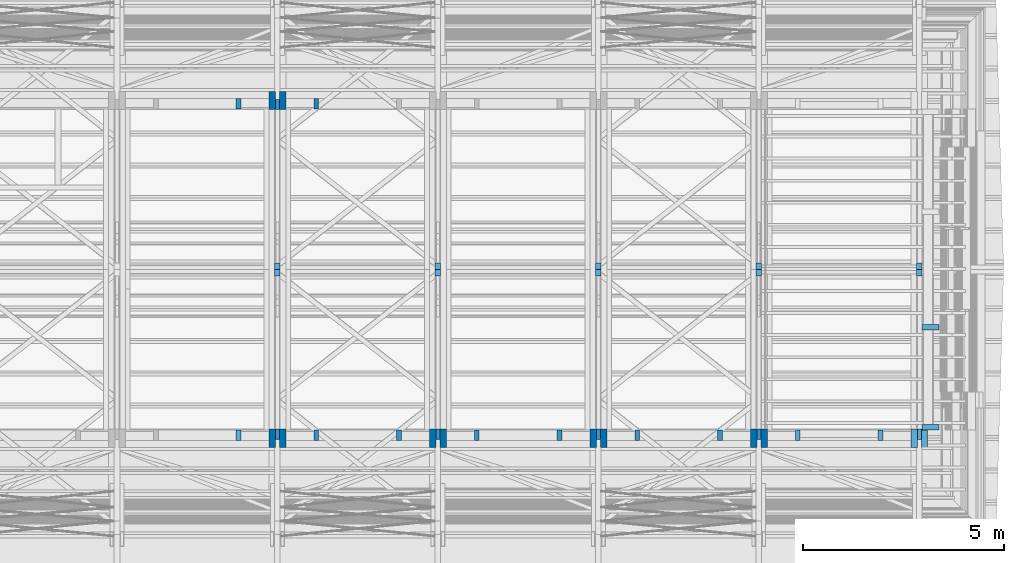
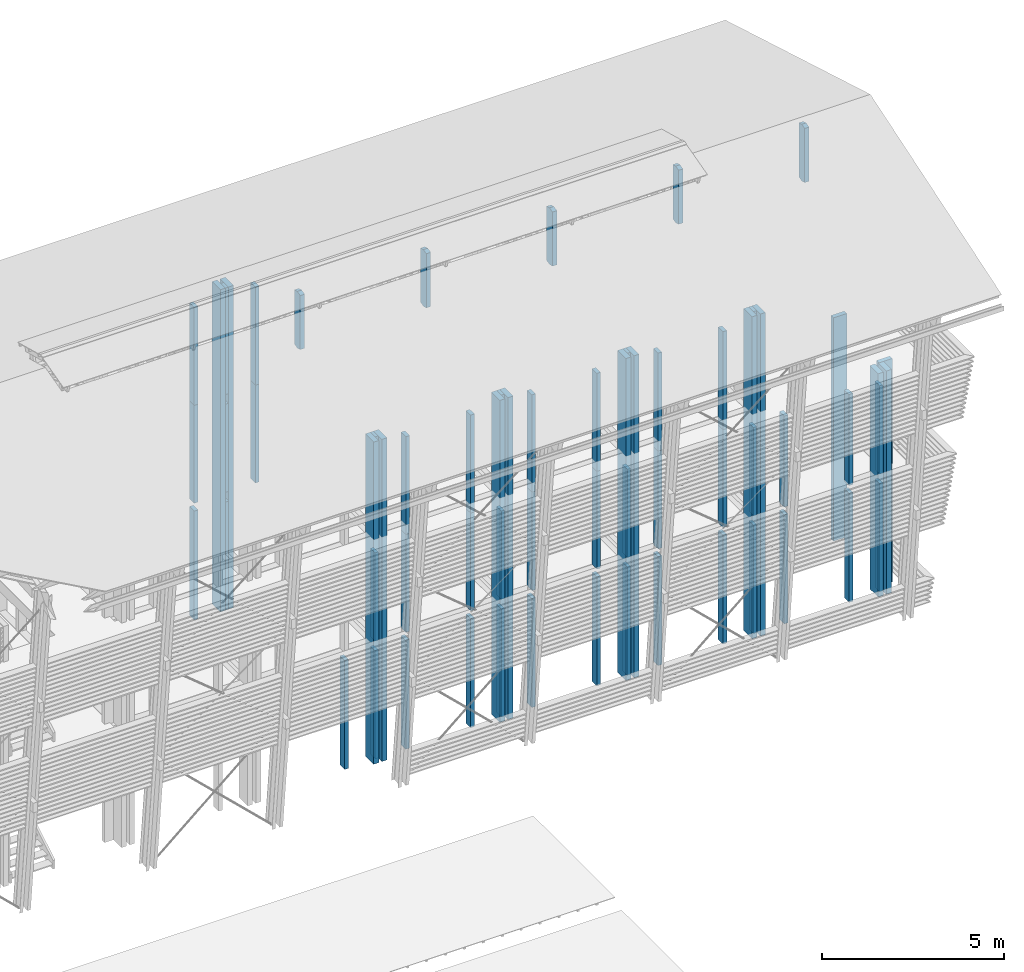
# One storey, part 3 of 48: 64 columns.
"""IFC2X3 building model written with IfcOpenShell, lengths in metres."""

from ifc_helpers import new_model, si_unit, direction, frame, origin_with_axes, place, context, subcontext, project, spatial, faceted_brep, material, element, save


model = new_model("IFC2X3")

# Units and contexts
model_context = context("Model", 3, precision=1e-06, world=origin_with_axes(), true_north=direction((0.0, 1.0, 0.0)))
body_context = subcontext(model_context, "Body", "Model", "MODEL_VIEW")
ifc_project = project(units=[si_unit("LENGTHUNIT", "METRE"), si_unit("AREAUNIT", "SQUARE_METRE"), si_unit("VOLUMEUNIT", "CUBIC_METRE"), si_unit("PLANEANGLEUNIT", "RADIAN")], contexts=[model_context])

# Site, building, storey
site_placement = place(None, origin_with_axes())
site = spatial("IfcSite", under=ifc_project, at=site_placement, CompositionType="ELEMENT")
building_placement = place(site_placement, origin_with_axes())
building = spatial("IfcBuilding", under=site, at=building_placement, Name="Building 1", CompositionType="ELEMENT")
storey_placement = place(building_placement, origin_with_axes())
storey = spatial("IfcBuildingStorey", under=building, at=storey_placement, Name="Storey 1", CompositionType="ELEMENT", Elevation=0.0)

# Columns
ifc_material = material(Name="GL28h")
column_1_placement = place(storey_placement, frame((68.5197437, -193.3396515, 4.215), z_axis=(0.0, 1.0, 0.0), x_axis=(0.0, 0.0, 1.0)))
element("IfcColumn", 1, at=column_1_placement, inside=storey, material=ifc_material, Name="poteau encadrement menuiserie", context=body_context, shape_type="Brep", body=[
    faceted_brep([(3.055, -0.06, 0.13), (3.055, 0.06, 0.13), (0.0, 0.06, 0.13), (0.0, -0.06, 0.13), (3.055, 0.06, -0.13), (0.0, 0.06, -0.13), (3.055, -0.06, -0.13), (0.0, -0.06, -0.13)], [[[0, 1, 2, 3]], [[1, 4, 5, 2]], [[4, 6, 7, 5]], [[7, 3, 2, 5]], [[6, 0, 3, 7]], [[0, 6, 4, 1]]]),
])
column_2_placement = place(storey_placement, frame((65.6197437, -193.4196515, 0.3), z_axis=(0.0, 1.0, 0.0), x_axis=(0.0, 0.0, 1.0)))
element("IfcColumn", 2, at=column_2_placement, inside=storey, material=ifc_material, Name="Poteau", context=body_context, shape_type="Brep", body=[
    faceted_brep([(10.8, 0.08, 0.23), (0.0, 0.08, 0.23), (0.0, -0.08, 0.23), (10.8, -0.08, 0.23), (10.8, 0.08, -0.23), (0.0, 0.08, -0.23), (10.8, -0.08, -0.23), (0.0, -0.08, -0.23)], [[[0, 1, 2, 3]], [[0, 4, 5, 1]], [[6, 7, 5, 4]], [[2, 7, 6, 3]], [[1, 5, 7, 2]], [[3, 6, 4, 0]]]),
])
column_3_placement = place(storey_placement, frame((57.4897437, -189.2080698, 11.5112653), z_axis=(0.0, -1.0, 0.0), x_axis=(0.0, 0.0, 1.0)))
element("IfcColumn", 3, at=column_3_placement, inside=storey, material=ifc_material, Name="poinçon", context=body_context, shape_type="Brep", body=[
    faceted_brep([(0.0428719, 0.07, 0.16), (0.0428719, -0.07, 0.16), (1.8571281, -0.07, 0.16), (1.8571281, 0.07, 0.16), (0.0, -0.07, 0.0), (0.0, 0.07, 0.0), (1.9, -0.07, 0.0), (1.9, 0.07, 0.0), (0.0428719, 0.07, -0.16), (0.0428719, -0.07, -0.16), (1.8571281, 0.07, -0.16), (1.8571281, -0.07, -0.16)], [[[0, 1, 2, 3]], [[4, 1, 0, 5]], [[6, 7, 3, 2]], [[8, 9, 4, 5]], [[8, 5, 0, 3, 7, 10]], [[9, 8, 10, 11]], [[11, 10, 7, 6]], [[4, 9, 11, 6, 2, 1]]]),
])
column_4_placement = place(storey_placement, frame((57.4897437, -193.3196515, 7.529), z_axis=(0.0, -1.0, 0.0), x_axis=(0.0, 0.0, 1.0)))
element("IfcColumn", 4, at=column_4_placement, inside=storey, material=ifc_material, Name="Fourrure", context=body_context, shape_type="Brep", body=[
    faceted_brep([(0.0, 0.05, 0.13), (0.0, -0.05, 0.13), (3.571, -0.05, 0.13), (3.571, 0.05, 0.13), (0.0, 0.05, -0.13), (3.571, 0.05, -0.13), (0.0, -0.05, -0.13), (3.571, -0.05, -0.13)], [[[0, 1, 2, 3]], [[4, 0, 3, 5]], [[6, 4, 5, 7]], [[1, 6, 7, 2]], [[4, 6, 1, 0]], [[2, 7, 5, 3]]]),
])
column_5_placement = place(storey_placement, frame((69.4897437, -193.3196515, 4.249), z_axis=(0.0, -1.0, 0.0), x_axis=(0.0, 0.0, 1.0)))
element("IfcColumn", 5, at=column_5_placement, inside=storey, material=ifc_material, Name="Fourrure", context=body_context, shape_type="Brep", body=[
    faceted_brep([(0.0, 0.05, -0.13), (0.0, -0.05, -0.13), (0.0, -0.05, 0.13), (0.0, 0.05, 0.13), (2.96, 0.05, 0.13), (2.96, 0.05, -0.13), (2.96, -0.05, -0.13), (2.96, -0.05, 0.13)], [[[0, 1, 2, 3]], [[0, 3, 4, 5]], [[1, 0, 5, 6]], [[3, 2, 7, 4]], [[2, 1, 6, 7]], [[7, 6, 5, 4]]]),
])
column_6_placement = place(storey_placement, frame((68.5197437, -193.3396515, 0.3), z_axis=(0.0, -1.0, 0.0), x_axis=(0.0, 0.0, 1.0)))
element("IfcColumn", 6, at=column_6_placement, inside=storey, material=ifc_material, Name="poteau encadrement menuiserie", context=body_context, shape_type="Brep", body=[
    faceted_brep([(0.0, 0.06, -0.13), (3.655, 0.06, -0.13), (3.655, -0.06, -0.13), (0.0, -0.06, -0.13), (0.0, 0.06, 0.13), (3.655, 0.06, 0.13), (0.0, -0.06, 0.13), (3.655, -0.06, 0.13)], [[[0, 1, 2, 3]], [[4, 5, 1, 0]], [[6, 7, 5, 4]], [[3, 2, 7, 6]], [[7, 2, 1, 5]], [[3, 6, 4, 0]]]),
])
column_7_placement = place(storey_placement, frame((66.4597437, -193.3396515, 4.215), z_axis=(0.0, 1.0, 0.0), x_axis=(0.0, 0.0, 1.0)))
element("IfcColumn", 7, at=column_7_placement, inside=storey, material=ifc_material, Name="poteau encadrement menuiserie", context=body_context, shape_type="Brep", body=[
    faceted_brep([(3.055, -0.06, 0.13), (3.055, 0.06, 0.13), (0.0, 0.06, 0.13), (0.0, -0.06, 0.13), (3.055, 0.06, -0.13), (0.0, 0.06, -0.13), (3.055, -0.06, -0.13), (0.0, -0.06, -0.13)], [[[0, 1, 2, 3]], [[1, 4, 5, 2]], [[4, 6, 7, 5]], [[7, 3, 2, 5]], [[6, 0, 3, 7]], [[0, 6, 4, 1]]]),
])
column_8_placement = place(storey_placement, frame((69.7697437, -190.6480698, 0.3), z_axis=(1.0, 0.0, 0.0), x_axis=(0.0, 0.0, 1.0)))
element("IfcColumn", 8, at=column_8_placement, inside=storey, material=ifc_material, Name="poteau", context=body_context, shape_type="Brep", body=[
    faceted_brep([(7.49, 0.07, 0.21), (7.49, 0.07, -0.21), (0.0, 0.07, -0.21), (0.0, 0.07, 0.21), (7.49, -0.07, -0.21), (0.0, -0.07, -0.21), (7.49, -0.07, 0.21), (0.0, -0.07, 0.21)], [[[0, 1, 2, 3]], [[1, 4, 5, 2]], [[4, 6, 7, 5]], [[6, 0, 3, 7]], [[0, 6, 4, 1]], [[3, 2, 5, 7]]]),
])
column_9_placement = place(storey_placement, frame((54.4597437, -185.0764881, 4.215), z_axis=(0.0, -1.0, 0.0), x_axis=(0.0, 0.0, 1.0)))
element("IfcColumn", 9, at=column_9_placement, inside=storey, material=ifc_material, Name="poteau encadrement menuiserie", context=body_context, shape_type="Brep", body=[
    faceted_brep([(3.3, 0.06, 0.13), (3.3, 0.06, -0.13), (0.0, 0.06, -0.13), (0.0, 0.06, 0.13), (3.3, -0.06, -0.13), (0.0, -0.06, -0.13), (3.3, -0.06, 0.13), (0.0, -0.06, 0.13)], [[[0, 1, 2, 3]], [[1, 4, 5, 2]], [[4, 6, 7, 5]], [[6, 0, 3, 7]], [[0, 6, 4, 1]], [[3, 2, 5, 7]]]),
])
column_10_placement = place(storey_placement, frame((56.5197437, -193.3396515, 7.495), z_axis=(0.0, 1.0, 0.0), x_axis=(0.0, 0.0, 1.0)))
element("IfcColumn", 10, at=column_10_placement, inside=storey, material=ifc_material, Name="poteau encadrement menuiserie", context=body_context, shape_type="Brep", body=[
    faceted_brep([(0.0, -0.06, 0.13), (3.285, -0.06, 0.13), (3.285, 0.06, 0.13), (0.0, 0.06, 0.13), (3.285, 0.06, -0.13), (0.0, 0.06, -0.13), (3.285, -0.06, -0.13), (0.0, -0.06, -0.13)], [[[0, 1, 2, 3]], [[3, 2, 4, 5]], [[5, 4, 6, 7]], [[7, 0, 3, 5]], [[7, 6, 1, 0]], [[1, 6, 4, 2]]]),
])
column_11_placement = place(storey_placement, frame((66.4597437, -193.3396515, 0.3), z_axis=(0.0, -1.0, 0.0), x_axis=(0.0, 0.0, 1.0)))
element("IfcColumn", 11, at=column_11_placement, inside=storey, material=ifc_material, Name="poteau encadrement menuiserie", context=body_context, shape_type="Brep", body=[
    faceted_brep([(0.0, 0.06, -0.13), (3.655, 0.06, -0.13), (3.655, -0.06, -0.13), (0.0, -0.06, -0.13), (0.0, 0.06, 0.13), (3.655, 0.06, 0.13), (0.0, -0.06, 0.13), (3.655, -0.06, 0.13)], [[[0, 1, 2, 3]], [[4, 5, 1, 0]], [[6, 7, 5, 4]], [[3, 2, 7, 6]], [[7, 2, 1, 5]], [[3, 6, 4, 0]]]),
])
column_12_placement = place(storey_placement, frame((69.6197437, -193.4196515, 0.3), z_axis=(0.0, 1.0, 0.0), x_axis=(0.0, 0.0, 1.0)))
element("IfcColumn", 12, at=column_12_placement, inside=storey, material=ifc_material, Name="Poteau", context=body_context, shape_type="Brep", body=[
    faceted_brep([(7.49, -0.08, 0.23), (7.49, 0.08, 0.23), (0.0, 0.08, 0.23), (0.0, -0.08, 0.23), (7.49, 0.08, -0.23), (0.0, 0.08, -0.23), (7.49, -0.08, -0.23), (0.0, -0.08, -0.23)], [[[0, 1, 2, 3]], [[1, 4, 5, 2]], [[4, 6, 7, 5]], [[6, 0, 3, 7]], [[0, 6, 4, 1]], [[2, 5, 7, 3]]]),
])
column_13_placement = place(storey_placement, frame((69.7697437, -193.1396515, 0.3), z_axis=(1.0, 0.0, 0.0), x_axis=(0.0, 0.0, 1.0)))
element("IfcColumn", 13, at=column_13_placement, inside=storey, material=ifc_material, Name="poteau", context=body_context, shape_type="Brep", body=[
    faceted_brep([(7.49, 0.07, 0.21), (7.49, 0.07, -0.21), (0.0, 0.07, -0.21), (0.0, 0.07, 0.21), (7.49, -0.07, -0.21), (0.0, -0.07, -0.21), (7.49, -0.07, 0.21), (0.0, -0.07, 0.21)], [[[0, 1, 2, 3]], [[1, 4, 5, 2]], [[4, 6, 7, 5]], [[6, 0, 3, 7]], [[0, 6, 4, 1]], [[3, 2, 5, 7]]]),
])
column_14_placement = place(storey_placement, frame((61.6197437, -193.4196515, 0.3), z_axis=(0.0, 1.0, 0.0), x_axis=(0.0, 0.0, 1.0)))
element("IfcColumn", 14, at=column_14_placement, inside=storey, material=ifc_material, Name="Poteau", context=body_context, shape_type="Brep", body=[
    faceted_brep([(10.8, 0.08, 0.23), (0.0, 0.08, 0.23), (0.0, -0.08, 0.23), (10.8, -0.08, 0.23), (10.8, 0.08, -0.23), (0.0, 0.08, -0.23), (10.8, -0.08, -0.23), (0.0, -0.08, -0.23)], [[[0, 1, 2, 3]], [[0, 4, 5, 1]], [[6, 7, 5, 4]], [[2, 7, 6, 3]], [[1, 5, 7, 2]], [[3, 6, 4, 0]]]),
])
column_15_placement = place(storey_placement, frame((69.4897437, -189.2080698, 11.5112653), z_axis=(0.0, -1.0, 0.0), x_axis=(0.0, 0.0, 1.0)))
element("IfcColumn", 15, at=column_15_placement, inside=storey, material=ifc_material, Name="poinçon", context=body_context, shape_type="Brep", body=[
    faceted_brep([(0.0428719, 0.07, 0.16), (0.0428719, -0.07, 0.16), (1.8571281, -0.07, 0.16), (1.8571281, 0.07, 0.16), (0.0, -0.07, 0.0), (0.0, 0.07, 0.0), (1.9, -0.07, 0.0), (1.9, 0.07, 0.0), (0.0428719, 0.07, -0.16), (0.0428719, -0.07, -0.16), (1.8571281, 0.07, -0.16), (1.8571281, -0.07, -0.16)], [[[0, 1, 2, 3]], [[4, 1, 0, 5]], [[6, 7, 3, 2]], [[8, 9, 4, 5]], [[8, 5, 0, 3, 7, 10]], [[9, 8, 10, 11]], [[11, 10, 7, 6]], [[4, 9, 11, 6, 2, 1]]]),
])
column_16_placement = place(storey_placement, frame((69.4897437, -193.3196515, 0.3), z_axis=(0.0, -1.0, 0.0), x_axis=(0.0, 0.0, 1.0)))
element("IfcColumn", 16, at=column_16_placement, inside=storey, material=ifc_material, Name="Fourrure", context=body_context, shape_type="Brep", body=[
    faceted_brep([(3.629, -0.05, 0.13), (3.629, -0.05, -0.13), (3.629, 0.05, -0.13), (3.629, 0.05, 0.13), (0.0, 0.05, 0.13), (0.0, -0.05, 0.13), (0.0, -0.05, -0.13), (0.0, 0.05, -0.13)], [[[0, 1, 2, 3]], [[0, 3, 4, 5]], [[1, 0, 5, 6]], [[2, 1, 6, 7]], [[3, 2, 7, 4]], [[6, 5, 4, 7]]]),
])
column_17_placement = place(storey_placement, frame((69.3597437, -193.4196515, 0.3), z_axis=(0.0, 1.0, 0.0), x_axis=(0.0, 0.0, 1.0)))
element("IfcColumn", 17, at=column_17_placement, inside=storey, material=ifc_material, Name="Poteau", context=body_context, shape_type="Brep", body=[
    faceted_brep([(7.49, -0.08, 0.23), (7.49, 0.08, 0.23), (0.0, 0.08, 0.23), (0.0, -0.08, 0.23), (7.49, 0.08, -0.23), (0.0, 0.08, -0.23), (7.49, -0.08, -0.23), (0.0, -0.08, -0.23)], [[[0, 1, 2, 3]], [[1, 4, 5, 2]], [[4, 6, 7, 5]], [[6, 0, 3, 7]], [[0, 6, 4, 1]], [[2, 5, 7, 3]]]),
])
column_18_placement = place(storey_placement, frame((61.4897437, -193.3196515, 0.3), z_axis=(0.0, -1.0, 0.0), x_axis=(0.0, 0.0, 1.0)))
element("IfcColumn", 18, at=column_18_placement, inside=storey, material=ifc_material, Name="Fourrure", context=body_context, shape_type="Brep", body=[
    faceted_brep([(3.629, -0.05, 0.13), (3.629, -0.05, -0.13), (3.629, 0.05, -0.13), (3.629, 0.05, 0.13), (0.0, 0.05, 0.13), (0.0, -0.05, 0.13), (0.0, -0.05, -0.13), (0.0, 0.05, -0.13)], [[[0, 1, 2, 3]], [[0, 3, 4, 5]], [[1, 0, 5, 6]], [[2, 1, 6, 7]], [[3, 2, 7, 4]], [[6, 5, 4, 7]]]),
])
column_19_placement = place(storey_placement, frame((58.4597437, -193.3396515, 4.215), z_axis=(0.0, 1.0, 0.0), x_axis=(0.0, 0.0, 1.0)))
element("IfcColumn", 19, at=column_19_placement, inside=storey, material=ifc_material, Name="poteau encadrement menuiserie", context=body_context, shape_type="Brep", body=[
    faceted_brep([(3.3, 0.06, 0.13), (3.3, 0.06, -0.13), (0.0, 0.06, -0.13), (0.0, 0.06, 0.13), (3.3, -0.06, -0.13), (0.0, -0.06, -0.13), (3.3, -0.06, 0.13), (0.0, -0.06, 0.13)], [[[0, 1, 2, 3]], [[1, 4, 5, 2]], [[4, 6, 7, 5]], [[5, 7, 3, 2]], [[6, 0, 3, 7]], [[0, 6, 4, 1]]]),
])
column_20_placement = place(storey_placement, frame((65.4897437, -193.3196515, 0.3), z_axis=(0.0, -1.0, 0.0), x_axis=(0.0, 0.0, 1.0)))
element("IfcColumn", 20, at=column_20_placement, inside=storey, material=ifc_material, Name="Fourrure", context=body_context, shape_type="Brep", body=[
    faceted_brep([(3.629, -0.05, 0.13), (3.629, -0.05, -0.13), (3.629, 0.05, -0.13), (3.629, 0.05, 0.13), (0.0, 0.05, 0.13), (0.0, -0.05, 0.13), (0.0, -0.05, -0.13), (0.0, 0.05, -0.13)], [[[0, 1, 2, 3]], [[0, 3, 4, 5]], [[1, 0, 5, 6]], [[2, 1, 6, 7]], [[3, 2, 7, 4]], [[6, 5, 4, 7]]]),
])
column_21_placement = place(storey_placement, frame((62.4597437, -193.3396515, 4.215), z_axis=(0.0, 1.0, 0.0), x_axis=(0.0, 0.0, 1.0)))
element("IfcColumn", 21, at=column_21_placement, inside=storey, material=ifc_material, Name="poteau encadrement menuiserie", context=body_context, shape_type="Brep", body=[
    faceted_brep([(3.3, 0.06, 0.13), (3.3, 0.06, -0.13), (0.0, 0.06, -0.13), (0.0, 0.06, 0.13), (3.3, -0.06, -0.13), (0.0, -0.06, -0.13), (3.3, -0.06, 0.13), (0.0, -0.06, 0.13)], [[[0, 1, 2, 3]], [[1, 4, 5, 2]], [[4, 6, 7, 5]], [[5, 7, 3, 2]], [[6, 0, 3, 7]], [[0, 6, 4, 1]]]),
])
column_22_placement = place(storey_placement, frame((57.4897437, -193.3196515, 4.249), z_axis=(0.0, -1.0, 0.0), x_axis=(0.0, 0.0, 1.0)))
element("IfcColumn", 22, at=column_22_placement, inside=storey, material=ifc_material, Name="Fourrure", context=body_context, shape_type="Brep", body=[
    faceted_brep([(0.0, 0.05, -0.13), (0.0, -0.05, -0.13), (0.0, -0.05, 0.13), (0.0, 0.05, 0.13), (2.96, 0.05, 0.13), (2.96, 0.05, -0.13), (2.96, -0.05, -0.13), (2.96, -0.05, 0.13)], [[[0, 1, 2, 3]], [[0, 3, 4, 5]], [[1, 0, 5, 6]], [[3, 2, 7, 4]], [[2, 1, 6, 7]], [[7, 6, 5, 4]]]),
])
column_23_placement = place(storey_placement, frame((61.4897437, -193.3196515, 7.529), z_axis=(0.0, -1.0, 0.0), x_axis=(0.0, 0.0, 1.0)))
element("IfcColumn", 23, at=column_23_placement, inside=storey, material=ifc_material, Name="Fourrure", context=body_context, shape_type="Brep", body=[
    faceted_brep([(0.0, 0.05, 0.13), (0.0, -0.05, 0.13), (3.571, -0.05, 0.13), (3.571, 0.05, 0.13), (0.0, 0.05, -0.13), (3.571, 0.05, -0.13), (0.0, -0.05, -0.13), (3.571, -0.05, -0.13)], [[[0, 1, 2, 3]], [[4, 0, 3, 5]], [[6, 4, 5, 7]], [[1, 6, 7, 2]], [[4, 6, 1, 0]], [[2, 7, 5, 3]]]),
])
column_24_placement = place(storey_placement, frame((65.4897437, -189.2080698, 11.5112653), z_axis=(0.0, -1.0, 0.0), x_axis=(0.0, 0.0, 1.0)))
element("IfcColumn", 24, at=column_24_placement, inside=storey, material=ifc_material, Name="poinçon", context=body_context, shape_type="Brep", body=[
    faceted_brep([(0.0428719, 0.07, 0.16), (0.0428719, -0.07, 0.16), (1.8571281, -0.07, 0.16), (1.8571281, 0.07, 0.16), (0.0, -0.07, 0.0), (0.0, 0.07, 0.0), (1.9, -0.07, 0.0), (1.9, 0.07, 0.0), (0.0428719, 0.07, -0.16), (0.0428719, -0.07, -0.16), (1.8571281, 0.07, -0.16), (1.8571281, -0.07, -0.16)], [[[0, 1, 2, 3]], [[4, 1, 0, 5]], [[6, 7, 3, 2]], [[8, 9, 4, 5]], [[8, 5, 0, 3, 7, 10]], [[9, 8, 10, 11]], [[11, 10, 7, 6]], [[4, 9, 11, 6, 2, 1]]]),
])
column_25_placement = place(storey_placement, frame((54.4597437, -193.3396515, 7.495), z_axis=(0.0, -1.0, 0.0), x_axis=(0.0, 0.0, 1.0)))
element("IfcColumn", 25, at=column_25_placement, inside=storey, material=ifc_material, Name="poteau encadrement menuiserie", context=body_context, shape_type="Brep", body=[
    faceted_brep([(0.0, -0.06, 0.13), (3.285, -0.06, 0.13), (3.285, 0.06, 0.13), (0.0, 0.06, 0.13), (3.285, 0.06, -0.13), (0.0, 0.06, -0.13), (3.285, -0.06, -0.13), (0.0, -0.06, -0.13)], [[[0, 1, 2, 3]], [[3, 2, 4, 5]], [[5, 4, 6, 7]], [[7, 0, 3, 5]], [[7, 6, 1, 0]], [[1, 6, 4, 2]]]),
])
column_26_placement = place(storey_placement, frame((53.6197437, -193.4196515, 0.3), z_axis=(0.0, 1.0, 0.0), x_axis=(0.0, 0.0, 1.0)))
element("IfcColumn", 26, at=column_26_placement, inside=storey, material=ifc_material, Name="Poteau", context=body_context, shape_type="Brep", body=[
    faceted_brep([(10.8, 0.08, 0.23), (0.0, 0.08, 0.23), (0.0, -0.08, 0.23), (10.8, -0.08, 0.23), (10.8, 0.08, -0.23), (0.0, 0.08, -0.23), (10.8, -0.08, -0.23), (0.0, -0.08, -0.23)], [[[0, 1, 2, 3]], [[0, 4, 5, 1]], [[6, 7, 5, 4]], [[2, 7, 6, 3]], [[1, 5, 7, 2]], [[3, 6, 4, 0]]]),
])
column_27_placement = place(storey_placement, frame((57.4897437, -193.3196515, 0.3), z_axis=(0.0, -1.0, 0.0), x_axis=(0.0, 0.0, 1.0)))
element("IfcColumn", 27, at=column_27_placement, inside=storey, material=ifc_material, Name="Fourrure", context=body_context, shape_type="Brep", body=[
    faceted_brep([(3.629, -0.05, 0.13), (3.629, -0.05, -0.13), (3.629, 0.05, -0.13), (3.629, 0.05, 0.13), (0.0, 0.05, 0.13), (0.0, -0.05, 0.13), (0.0, -0.05, -0.13), (0.0, 0.05, -0.13)], [[[0, 1, 2, 3]], [[0, 3, 4, 5]], [[1, 0, 5, 6]], [[2, 1, 6, 7]], [[3, 2, 7, 4]], [[6, 5, 4, 7]]]),
])
column_28_placement = place(storey_placement, frame((56.5197437, -193.3396515, 4.215), z_axis=(0.0, 1.0, 0.0), x_axis=(0.0, 0.0, 1.0)))
element("IfcColumn", 28, at=column_28_placement, inside=storey, material=ifc_material, Name="poteau encadrement menuiserie", context=body_context, shape_type="Brep", body=[
    faceted_brep([(3.3, 0.06, 0.13), (3.3, 0.06, -0.13), (0.0, 0.06, -0.13), (0.0, 0.06, 0.13), (3.3, -0.06, -0.13), (0.0, -0.06, -0.13), (3.3, -0.06, 0.13), (0.0, -0.06, 0.13)], [[[0, 1, 2, 3]], [[1, 4, 5, 2]], [[4, 6, 7, 5]], [[5, 7, 3, 2]], [[6, 0, 3, 7]], [[0, 6, 4, 1]]]),
])
column_29_placement = place(storey_placement, frame((53.4897437, -193.3196515, 4.249), z_axis=(0.0, -1.0, 0.0), x_axis=(0.0, 0.0, 1.0)))
element("IfcColumn", 29, at=column_29_placement, inside=storey, material=ifc_material, Name="Fourrure", context=body_context, shape_type="Brep", body=[
    faceted_brep([(0.0, 0.05, -0.13), (0.0, -0.05, -0.13), (0.0, -0.05, 0.13), (0.0, 0.05, 0.13), (2.96, 0.05, 0.13), (2.96, 0.05, -0.13), (2.96, -0.05, -0.13), (2.96, -0.05, 0.13)], [[[0, 1, 2, 3]], [[0, 3, 4, 5]], [[1, 0, 5, 6]], [[3, 2, 7, 4]], [[2, 1, 6, 7]], [[7, 6, 5, 4]]]),
])
column_30_placement = place(storey_placement, frame((53.3597437, -184.9964881, 0.3), z_axis=(0.0, 1.0, 0.0), x_axis=(0.0, 0.0, 1.0)))
element("IfcColumn", 30, at=column_30_placement, inside=storey, material=ifc_material, Name="Poteau", context=body_context, shape_type="Brep", body=[
    faceted_brep([(10.8, 0.08, 0.23), (0.0, 0.08, 0.23), (0.0, -0.08, 0.23), (10.8, -0.08, 0.23), (10.8, 0.08, -0.23), (0.0, 0.08, -0.23), (10.8, -0.08, -0.23), (0.0, -0.08, -0.23)], [[[0, 1, 2, 3]], [[0, 4, 5, 1]], [[6, 7, 5, 4]], [[2, 7, 6, 3]], [[1, 5, 7, 2]], [[3, 6, 4, 0]]]),
])
for number, where, z_axis, x_axis, name in (
    (31, (54.4597437, -185.0764881, 7.495), (0.0, 1.0, 0.0), (0.0, 0.0, 1.0), "poteau encadrement menuiserie"),
    (32, (58.4597437, -193.3396515, 7.495), (0.0, -1.0, 0.0), (0.0, 0.0, 1.0), "poteau encadrement menuiserie"),
):
    element("IfcColumn", number, at=place(storey_placement, frame(where, z_axis=z_axis, x_axis=x_axis)), inside=storey, material=ifc_material, Name=name, context=body_context, shape_type="Brep", body=[
        faceted_brep([(0.0, -0.06, 0.13), (3.285, -0.06, 0.13), (3.285, 0.06, 0.13), (0.0, 0.06, 0.13), (3.285, 0.06, -0.13), (0.0, 0.06, -0.13), (3.285, -0.06, -0.13), (0.0, -0.06, -0.13)], [[[0, 1, 2, 3]], [[3, 2, 4, 5]], [[5, 4, 6, 7]], [[7, 0, 3, 5]], [[7, 6, 1, 0]], [[1, 6, 4, 2]]]),
    ])
column_31_placement = place(storey_placement, frame((65.4897437, -193.3196515, 7.529), z_axis=(0.0, -1.0, 0.0), x_axis=(0.0, 0.0, 1.0)))
element("IfcColumn", 33, at=column_31_placement, inside=storey, material=ifc_material, Name="Fourrure", context=body_context, shape_type="Brep", body=[
    faceted_brep([(0.0, 0.05, 0.13), (0.0, -0.05, 0.13), (3.571, -0.05, 0.13), (3.571, 0.05, 0.13), (0.0, 0.05, -0.13), (3.571, 0.05, -0.13), (0.0, -0.05, -0.13), (3.571, -0.05, -0.13)], [[[0, 1, 2, 3]], [[4, 0, 3, 5]], [[6, 4, 5, 7]], [[1, 6, 7, 2]], [[4, 6, 1, 0]], [[2, 7, 5, 3]]]),
])
column_32_placement = place(storey_placement, frame((62.4597437, -193.3396515, 0.3), z_axis=(0.0, -1.0, 0.0), x_axis=(0.0, 0.0, 1.0)))
element("IfcColumn", 34, at=column_32_placement, inside=storey, material=ifc_material, Name="poteau encadrement menuiserie", context=body_context, shape_type="Brep", body=[
    faceted_brep([(0.0, 0.06, -0.13), (3.655, 0.06, -0.13), (3.655, -0.06, -0.13), (0.0, -0.06, -0.13), (0.0, 0.06, 0.13), (3.655, 0.06, 0.13), (0.0, -0.06, 0.13), (3.655, -0.06, 0.13)], [[[0, 1, 2, 3]], [[4, 5, 1, 0]], [[6, 7, 5, 4]], [[3, 2, 7, 6]], [[7, 2, 1, 5]], [[3, 6, 4, 0]]]),
])
column_33_placement = place(storey_placement, frame((53.4897437, -193.3196515, 7.529), z_axis=(0.0, -1.0, 0.0), x_axis=(0.0, 0.0, 1.0)))
element("IfcColumn", 35, at=column_33_placement, inside=storey, material=ifc_material, Name="Fourrure", context=body_context, shape_type="Brep", body=[
    faceted_brep([(0.0, 0.05, 0.13), (0.0, -0.05, 0.13), (3.571, -0.05, 0.13), (3.571, 0.05, 0.13), (0.0, 0.05, -0.13), (3.571, 0.05, -0.13), (0.0, -0.05, -0.13), (3.571, -0.05, -0.13)], [[[0, 1, 2, 3]], [[4, 0, 3, 5]], [[6, 4, 5, 7]], [[1, 6, 7, 2]], [[4, 6, 1, 0]], [[2, 7, 5, 3]]]),
])
column_34_placement = place(storey_placement, frame((53.4897437, -193.3196515, 0.3), z_axis=(0.0, -1.0, 0.0), x_axis=(0.0, 0.0, 1.0)))
element("IfcColumn", 36, at=column_34_placement, inside=storey, material=ifc_material, Name="Fourrure", context=body_context, shape_type="Brep", body=[
    faceted_brep([(3.629, -0.05, 0.13), (3.629, -0.05, -0.13), (3.629, 0.05, -0.13), (3.629, 0.05, 0.13), (0.0, 0.05, 0.13), (0.0, -0.05, 0.13), (0.0, -0.05, -0.13), (0.0, 0.05, -0.13)], [[[0, 1, 2, 3]], [[0, 3, 4, 5]], [[1, 0, 5, 6]], [[2, 1, 6, 7]], [[3, 2, 7, 4]], [[6, 5, 4, 7]]]),
])
column_35_placement = place(storey_placement, frame((52.5197437, -185.0764881, 7.495), z_axis=(0.0, -1.0, 0.0), x_axis=(0.0, 0.0, 1.0)))
element("IfcColumn", 37, at=column_35_placement, inside=storey, material=ifc_material, Name="poteau encadrement menuiserie", context=body_context, shape_type="Brep", body=[
    faceted_brep([(0.0, -0.06, 0.13), (3.285, -0.06, 0.13), (3.285, 0.06, 0.13), (0.0, 0.06, 0.13), (3.285, 0.06, -0.13), (0.0, 0.06, -0.13), (3.285, -0.06, -0.13), (0.0, -0.06, -0.13)], [[[0, 1, 2, 3]], [[3, 2, 4, 5]], [[5, 4, 6, 7]], [[7, 0, 3, 5]], [[7, 6, 1, 0]], [[1, 6, 4, 2]]]),
])
column_36_placement = place(storey_placement, frame((53.4897437, -189.2080698, 11.5112653), z_axis=(0.0, -1.0, 0.0), x_axis=(0.0, 0.0, 1.0)))
element("IfcColumn", 38, at=column_36_placement, inside=storey, material=ifc_material, Name="poinçon", context=body_context, shape_type="Brep", body=[
    faceted_brep([(0.0428719, 0.07, 0.16), (0.0428719, -0.07, 0.16), (1.8571281, -0.07, 0.16), (1.8571281, 0.07, 0.16), (0.0, -0.07, 0.0), (0.0, 0.07, 0.0), (1.9, -0.07, 0.0), (1.9, 0.07, 0.0), (0.0428719, 0.07, -0.16), (0.0428719, -0.07, -0.16), (1.8571281, 0.07, -0.16), (1.8571281, -0.07, -0.16)], [[[0, 1, 2, 3]], [[4, 1, 0, 5]], [[6, 7, 3, 2]], [[8, 9, 4, 5]], [[8, 5, 0, 3, 7, 10]], [[9, 8, 10, 11]], [[11, 10, 7, 6]], [[4, 9, 11, 6, 2, 1]]]),
])
column_37_placement = place(storey_placement, frame((53.4897437, -185.0964881, 7.529), z_axis=(0.0, 1.0, 0.0), x_axis=(0.0, 0.0, 1.0)))
element("IfcColumn", 39, at=column_37_placement, inside=storey, material=ifc_material, Name="Fourrure", context=body_context, shape_type="Brep", body=[
    faceted_brep([(0.0, -0.05, -0.13), (0.0, 0.05, -0.13), (3.571, 0.05, -0.13), (3.571, -0.05, -0.13), (0.0, -0.05, 0.13), (3.571, -0.05, 0.13), (0.0, 0.05, 0.13), (3.571, 0.05, 0.13)], [[[0, 1, 2, 3]], [[4, 0, 3, 5]], [[6, 4, 5, 7]], [[1, 6, 7, 2]], [[1, 0, 4, 6]], [[2, 7, 5, 3]]]),
])
for number, where, z_axis, x_axis, name in (
    (40, (53.6197437, -184.9964881, 0.3), (0.0, 1.0, 0.0), (0.0, 0.0, 1.0), "Poteau"),
    (41, (53.3597437, -193.4196515, 0.3), (0.0, 1.0, 0.0), (0.0, 0.0, 1.0), "Poteau"),
):
    element("IfcColumn", number, at=place(storey_placement, frame(where, z_axis=z_axis, x_axis=x_axis)), inside=storey, material=ifc_material, Name=name, context=body_context, shape_type="Brep", body=[
        faceted_brep([(10.8, 0.08, 0.23), (0.0, 0.08, 0.23), (0.0, -0.08, 0.23), (10.8, -0.08, 0.23), (10.8, 0.08, -0.23), (0.0, 0.08, -0.23), (10.8, -0.08, -0.23), (0.0, -0.08, -0.23)], [[[0, 1, 2, 3]], [[0, 4, 5, 1]], [[6, 7, 5, 4]], [[2, 7, 6, 3]], [[1, 5, 7, 2]], [[3, 6, 4, 0]]]),
    ])
column_38_placement = place(storey_placement, frame((53.4897437, -185.0964881, 4.249), z_axis=(0.0, 1.0, 0.0), x_axis=(0.0, 0.0, 1.0)))
element("IfcColumn", 42, at=column_38_placement, inside=storey, material=ifc_material, Name="Fourrure", context=body_context, shape_type="Brep", body=[
    faceted_brep([(0.0, 0.05, -0.13), (0.0, -0.05, -0.13), (0.0, -0.05, 0.13), (0.0, 0.05, 0.13), (2.96, -0.05, -0.13), (2.96, -0.05, 0.13), (2.96, 0.05, -0.13), (2.96, 0.05, 0.13)], [[[0, 1, 2, 3]], [[2, 1, 4, 5]], [[1, 0, 6, 4]], [[3, 2, 5, 7]], [[0, 3, 7, 6]], [[6, 7, 5, 4]]]),
])
column_39_placement = place(storey_placement, frame((53.4897437, -185.0964881, 0.3), z_axis=(0.0, 1.0, 0.0), x_axis=(0.0, 0.0, 1.0)))
element("IfcColumn", 43, at=column_39_placement, inside=storey, material=ifc_material, Name="Fourrure", context=body_context, shape_type="Brep", body=[
    faceted_brep([(3.629, 0.05, -0.13), (3.629, 0.05, 0.13), (3.629, -0.05, 0.13), (3.629, -0.05, -0.13), (0.0, 0.05, 0.13), (0.0, -0.05, 0.13), (0.0, 0.05, -0.13), (0.0, -0.05, -0.13)], [[[0, 1, 2, 3]], [[2, 1, 4, 5]], [[1, 0, 6, 4]], [[0, 3, 7, 6]], [[3, 2, 5, 7]], [[4, 6, 7, 5]]]),
])
column_40_placement = place(storey_placement, frame((62.4597437, -193.3396515, 7.495), z_axis=(0.0, -1.0, 0.0), x_axis=(0.0, 0.0, 1.0)))
element("IfcColumn", 44, at=column_40_placement, inside=storey, material=ifc_material, Name="poteau encadrement menuiserie", context=body_context, shape_type="Brep", body=[
    faceted_brep([(0.0, -0.06, 0.13), (3.285, -0.06, 0.13), (3.285, 0.06, 0.13), (0.0, 0.06, 0.13), (3.285, 0.06, -0.13), (0.0, 0.06, -0.13), (3.285, -0.06, -0.13), (0.0, -0.06, -0.13)], [[[0, 1, 2, 3]], [[3, 2, 4, 5]], [[5, 4, 6, 7]], [[7, 0, 3, 5]], [[7, 6, 1, 0]], [[1, 6, 4, 2]]]),
])
column_41_placement = place(storey_placement, frame((57.3597437, -193.4196515, 0.3), z_axis=(0.0, 1.0, 0.0), x_axis=(0.0, 0.0, 1.0)))
element("IfcColumn", 45, at=column_41_placement, inside=storey, material=ifc_material, Name="Poteau", context=body_context, shape_type="Brep", body=[
    faceted_brep([(10.8, 0.08, 0.23), (0.0, 0.08, 0.23), (0.0, -0.08, 0.23), (10.8, -0.08, 0.23), (10.8, 0.08, -0.23), (0.0, 0.08, -0.23), (10.8, -0.08, -0.23), (0.0, -0.08, -0.23)], [[[0, 1, 2, 3]], [[0, 4, 5, 1]], [[6, 7, 5, 4]], [[2, 7, 6, 3]], [[1, 5, 7, 2]], [[3, 6, 4, 0]]]),
])
column_42_placement = place(storey_placement, frame((61.4897437, -189.2080698, 11.5112653), z_axis=(0.0, -1.0, 0.0), x_axis=(0.0, 0.0, 1.0)))
element("IfcColumn", 46, at=column_42_placement, inside=storey, material=ifc_material, Name="poinçon", context=body_context, shape_type="Brep", body=[
    faceted_brep([(0.0428719, 0.07, 0.16), (0.0428719, -0.07, 0.16), (1.8571281, -0.07, 0.16), (1.8571281, 0.07, 0.16), (0.0, -0.07, 0.0), (0.0, 0.07, 0.0), (1.9, -0.07, 0.0), (1.9, 0.07, 0.0), (0.0428719, 0.07, -0.16), (0.0428719, -0.07, -0.16), (1.8571281, 0.07, -0.16), (1.8571281, -0.07, -0.16)], [[[0, 1, 2, 3]], [[4, 1, 0, 5]], [[6, 7, 3, 2]], [[8, 9, 4, 5]], [[8, 5, 0, 3, 7, 10]], [[9, 8, 10, 11]], [[11, 10, 7, 6]], [[4, 9, 11, 6, 2, 1]]]),
])
column_43_placement = place(storey_placement, frame((57.6197437, -193.4196515, 0.3), z_axis=(0.0, 1.0, 0.0), x_axis=(0.0, 0.0, 1.0)))
element("IfcColumn", 47, at=column_43_placement, inside=storey, material=ifc_material, Name="Poteau", context=body_context, shape_type="Brep", body=[
    faceted_brep([(10.8, 0.08, 0.23), (0.0, 0.08, 0.23), (0.0, -0.08, 0.23), (10.8, -0.08, 0.23), (10.8, 0.08, -0.23), (0.0, 0.08, -0.23), (10.8, -0.08, -0.23), (0.0, -0.08, -0.23)], [[[0, 1, 2, 3]], [[0, 4, 5, 1]], [[6, 7, 5, 4]], [[2, 7, 6, 3]], [[1, 5, 7, 2]], [[3, 6, 4, 0]]]),
])
for number, where, z_axis, x_axis in (
    (48, (65.4897437, -193.3196515, 4.249), (0.0, -1.0, 0.0), (0.0, 0.0, 1.0)),
    (49, (61.4897437, -193.3196515, 4.249), (0.0, -1.0, 0.0), (0.0, 0.0, 1.0)),
):
    element("IfcColumn", number, at=place(storey_placement, frame(where, z_axis=z_axis, x_axis=x_axis)), inside=storey, material=ifc_material, Name="Fourrure", context=body_context, shape_type="Brep", body=[
        faceted_brep([(0.0, 0.05, -0.13), (0.0, -0.05, -0.13), (0.0, -0.05, 0.13), (0.0, 0.05, 0.13), (2.96, 0.05, 0.13), (2.96, 0.05, -0.13), (2.96, -0.05, -0.13), (2.96, -0.05, 0.13)], [[[0, 1, 2, 3]], [[0, 3, 4, 5]], [[1, 0, 5, 6]], [[3, 2, 7, 4]], [[2, 1, 6, 7]], [[7, 6, 5, 4]]]),
    ])
for number, where, z_axis, x_axis, name in (
    (50, (65.3597437, -193.4196515, 0.3), (0.0, 1.0, 0.0), (0.0, 0.0, 1.0), "Poteau"),
    (51, (61.3597437, -193.4196515, 0.3), (0.0, 1.0, 0.0), (0.0, 0.0, 1.0), "Poteau"),
):
    element("IfcColumn", number, at=place(storey_placement, frame(where, z_axis=z_axis, x_axis=x_axis)), inside=storey, material=ifc_material, Name=name, context=body_context, shape_type="Brep", body=[
        faceted_brep([(10.8, 0.08, 0.23), (0.0, 0.08, 0.23), (0.0, -0.08, 0.23), (10.8, -0.08, 0.23), (10.8, 0.08, -0.23), (0.0, 0.08, -0.23), (10.8, -0.08, -0.23), (0.0, -0.08, -0.23)], [[[0, 1, 2, 3]], [[0, 4, 5, 1]], [[6, 7, 5, 4]], [[2, 7, 6, 3]], [[1, 5, 7, 2]], [[3, 6, 4, 0]]]),
    ])
column_44_placement = place(storey_placement, frame((60.5197437, -193.3396515, 7.495), z_axis=(0.0, 1.0, 0.0), x_axis=(0.0, 0.0, 1.0)))
element("IfcColumn", 52, at=column_44_placement, inside=storey, material=ifc_material, Name="poteau encadrement menuiserie", context=body_context, shape_type="Brep", body=[
    faceted_brep([(0.0, -0.06, 0.13), (3.285, -0.06, 0.13), (3.285, 0.06, 0.13), (0.0, 0.06, 0.13), (3.285, 0.06, -0.13), (0.0, 0.06, -0.13), (3.285, -0.06, -0.13), (0.0, -0.06, -0.13)], [[[0, 1, 2, 3]], [[3, 2, 4, 5]], [[5, 4, 6, 7]], [[7, 0, 3, 5]], [[7, 6, 1, 0]], [[1, 6, 4, 2]]]),
])
for number, where, z_axis, x_axis, name in (
    (53, (56.5197437, -193.3396515, 0.3), (0.0, -1.0, 0.0), (0.0, 0.0, 1.0), "poteau encadrement menuiserie"),
    (54, (54.4597437, -193.3396515, 0.3), (0.0, -1.0, 0.0), (0.0, 0.0, 1.0), "poteau encadrement menuiserie"),
):
    element("IfcColumn", number, at=place(storey_placement, frame(where, z_axis=z_axis, x_axis=x_axis)), inside=storey, material=ifc_material, Name=name, context=body_context, shape_type="Brep", body=[
        faceted_brep([(0.0, 0.06, -0.13), (3.655, 0.06, -0.13), (3.655, -0.06, -0.13), (0.0, -0.06, -0.13), (0.0, 0.06, 0.13), (3.655, 0.06, 0.13), (0.0, -0.06, 0.13), (3.655, -0.06, 0.13)], [[[0, 1, 2, 3]], [[4, 5, 1, 0]], [[6, 7, 5, 4]], [[3, 2, 7, 6]], [[7, 2, 1, 5]], [[3, 6, 4, 0]]]),
    ])
column_45_placement = place(storey_placement, frame((60.5197437, -193.3396515, 4.215), z_axis=(0.0, 1.0, 0.0), x_axis=(0.0, 0.0, 1.0)))
element("IfcColumn", 55, at=column_45_placement, inside=storey, material=ifc_material, Name="poteau encadrement menuiserie", context=body_context, shape_type="Brep", body=[
    faceted_brep([(3.3, 0.06, 0.13), (3.3, 0.06, -0.13), (0.0, 0.06, -0.13), (0.0, 0.06, 0.13), (3.3, -0.06, -0.13), (0.0, -0.06, -0.13), (3.3, -0.06, 0.13), (0.0, -0.06, 0.13)], [[[0, 1, 2, 3]], [[1, 4, 5, 2]], [[4, 6, 7, 5]], [[5, 7, 3, 2]], [[6, 0, 3, 7]], [[0, 6, 4, 1]]]),
])
column_46_placement = place(storey_placement, frame((58.4597437, -193.3396515, 0.3), z_axis=(0.0, -1.0, 0.0), x_axis=(0.0, 0.0, 1.0)))
element("IfcColumn", 56, at=column_46_placement, inside=storey, material=ifc_material, Name="poteau encadrement menuiserie", context=body_context, shape_type="Brep", body=[
    faceted_brep([(0.0, 0.06, -0.13), (3.655, 0.06, -0.13), (3.655, -0.06, -0.13), (0.0, -0.06, -0.13), (0.0, 0.06, 0.13), (3.655, 0.06, 0.13), (0.0, -0.06, 0.13), (3.655, -0.06, 0.13)], [[[0, 1, 2, 3]], [[4, 5, 1, 0]], [[6, 7, 5, 4]], [[3, 2, 7, 6]], [[7, 2, 1, 5]], [[3, 6, 4, 0]]]),
])
column_47_placement = place(storey_placement, frame((64.5197437, -193.3396515, 4.215), z_axis=(0.0, 1.0, 0.0), x_axis=(0.0, 0.0, 1.0)))
element("IfcColumn", 57, at=column_47_placement, inside=storey, material=ifc_material, Name="poteau encadrement menuiserie", context=body_context, shape_type="Brep", body=[
    faceted_brep([(3.3, 0.06, 0.13), (3.3, 0.06, -0.13), (0.0, 0.06, -0.13), (0.0, 0.06, 0.13), (3.3, -0.06, -0.13), (0.0, -0.06, -0.13), (3.3, -0.06, 0.13), (0.0, -0.06, 0.13)], [[[0, 1, 2, 3]], [[1, 4, 5, 2]], [[4, 6, 7, 5]], [[5, 7, 3, 2]], [[6, 0, 3, 7]], [[0, 6, 4, 1]]]),
])
column_48_placement = place(storey_placement, frame((52.5197437, -193.3396515, 0.3), z_axis=(0.0, -1.0, 0.0), x_axis=(0.0, 0.0, 1.0)))
element("IfcColumn", 58, at=column_48_placement, inside=storey, material=ifc_material, Name="poteau encadrement menuiserie", context=body_context, shape_type="Brep", body=[
    faceted_brep([(0.0, 0.06, -0.13), (3.655, 0.06, -0.13), (3.655, -0.06, -0.13), (0.0, -0.06, -0.13), (0.0, 0.06, 0.13), (3.655, 0.06, 0.13), (0.0, -0.06, 0.13), (3.655, -0.06, 0.13)], [[[0, 1, 2, 3]], [[4, 5, 1, 0]], [[6, 7, 5, 4]], [[3, 2, 7, 6]], [[7, 2, 1, 5]], [[3, 6, 4, 0]]]),
])
column_49_placement = place(storey_placement, frame((54.4597437, -193.3396515, 4.215), z_axis=(0.0, 1.0, 0.0), x_axis=(0.0, 0.0, 1.0)))
element("IfcColumn", 59, at=column_49_placement, inside=storey, material=ifc_material, Name="poteau encadrement menuiserie", context=body_context, shape_type="Brep", body=[
    faceted_brep([(3.3, 0.06, 0.13), (3.3, 0.06, -0.13), (0.0, 0.06, -0.13), (0.0, 0.06, 0.13), (3.3, -0.06, -0.13), (0.0, -0.06, -0.13), (3.3, -0.06, 0.13), (0.0, -0.06, 0.13)], [[[0, 1, 2, 3]], [[1, 4, 5, 2]], [[4, 6, 7, 5]], [[5, 7, 3, 2]], [[6, 0, 3, 7]], [[0, 6, 4, 1]]]),
])
column_50_placement = place(storey_placement, frame((64.5197437, -193.3396515, 7.495), z_axis=(0.0, 1.0, 0.0), x_axis=(0.0, 0.0, 1.0)))
element("IfcColumn", 60, at=column_50_placement, inside=storey, material=ifc_material, Name="poteau encadrement menuiserie", context=body_context, shape_type="Brep", body=[
    faceted_brep([(0.0, -0.06, 0.13), (3.285, -0.06, 0.13), (3.285, 0.06, 0.13), (0.0, 0.06, 0.13), (3.285, 0.06, -0.13), (0.0, 0.06, -0.13), (3.285, -0.06, -0.13), (0.0, -0.06, -0.13)], [[[0, 1, 2, 3]], [[3, 2, 4, 5]], [[5, 4, 6, 7]], [[7, 0, 3, 5]], [[7, 6, 1, 0]], [[1, 6, 4, 2]]]),
])
column_51_placement = place(storey_placement, frame((60.5197437, -193.3396515, 0.3), z_axis=(0.0, -1.0, 0.0), x_axis=(0.0, 0.0, 1.0)))
element("IfcColumn", 61, at=column_51_placement, inside=storey, material=ifc_material, Name="poteau encadrement menuiserie", context=body_context, shape_type="Brep", body=[
    faceted_brep([(0.0, 0.06, -0.13), (3.655, 0.06, -0.13), (3.655, -0.06, -0.13), (0.0, -0.06, -0.13), (0.0, 0.06, 0.13), (3.655, 0.06, 0.13), (0.0, -0.06, 0.13), (3.655, -0.06, 0.13)], [[[0, 1, 2, 3]], [[4, 5, 1, 0]], [[6, 7, 5, 4]], [[3, 2, 7, 6]], [[7, 2, 1, 5]], [[3, 6, 4, 0]]]),
])
column_52_placement = place(storey_placement, frame((52.5197437, -185.0764881, 0.3), z_axis=(0.0, 1.0, 0.0), x_axis=(0.0, 0.0, 1.0)))
element("IfcColumn", 62, at=column_52_placement, inside=storey, material=ifc_material, Name="poteau encadrement menuiserie", context=body_context, shape_type="Brep", body=[
    faceted_brep([(3.655, -0.06, -0.13), (0.0, -0.06, -0.13), (0.0, 0.06, -0.13), (3.655, 0.06, -0.13), (3.655, -0.06, 0.13), (0.0, -0.06, 0.13), (3.655, 0.06, 0.13), (0.0, 0.06, 0.13)], [[[0, 1, 2, 3]], [[4, 5, 1, 0]], [[6, 7, 5, 4]], [[3, 2, 7, 6]], [[3, 6, 4, 0]], [[7, 2, 1, 5]]]),
])
column_53_placement = place(storey_placement, frame((64.5197437, -193.3396515, 0.3), z_axis=(0.0, -1.0, 0.0), x_axis=(0.0, 0.0, 1.0)))
element("IfcColumn", 63, at=column_53_placement, inside=storey, material=ifc_material, Name="poteau encadrement menuiserie", context=body_context, shape_type="Brep", body=[
    faceted_brep([(0.0, 0.06, -0.13), (3.655, 0.06, -0.13), (3.655, -0.06, -0.13), (0.0, -0.06, -0.13), (0.0, 0.06, 0.13), (3.655, 0.06, 0.13), (0.0, -0.06, 0.13), (3.655, -0.06, 0.13)], [[[0, 1, 2, 3]], [[4, 5, 1, 0]], [[6, 7, 5, 4]], [[3, 2, 7, 6]], [[7, 2, 1, 5]], [[3, 6, 4, 0]]]),
])
column_54_placement = place(storey_placement, frame((52.5197437, -185.0764881, 4.215), z_axis=(0.0, -1.0, 0.0), x_axis=(0.0, 0.0, 1.0)))
element("IfcColumn", 64, at=column_54_placement, inside=storey, material=ifc_material, Name="poteau encadrement menuiserie", context=body_context, shape_type="Brep", body=[
    faceted_brep([(3.3, 0.06, 0.13), (3.3, 0.06, -0.13), (0.0, 0.06, -0.13), (0.0, 0.06, 0.13), (3.3, -0.06, -0.13), (0.0, -0.06, -0.13), (3.3, -0.06, 0.13), (0.0, -0.06, 0.13)], [[[0, 1, 2, 3]], [[1, 4, 5, 2]], [[4, 6, 7, 5]], [[6, 0, 3, 7]], [[0, 6, 4, 1]], [[3, 2, 5, 7]]]),
])

save(model, "model.ifc")
